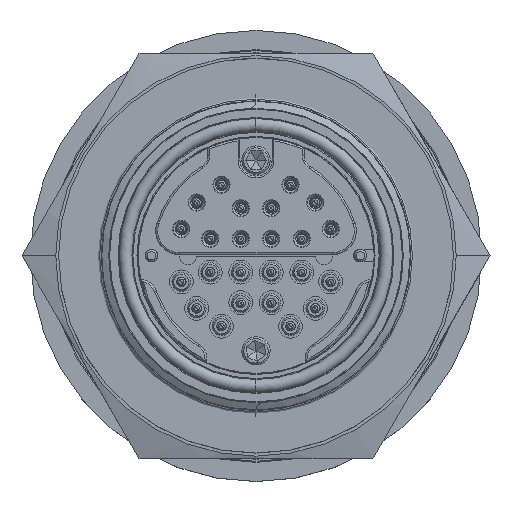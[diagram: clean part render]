
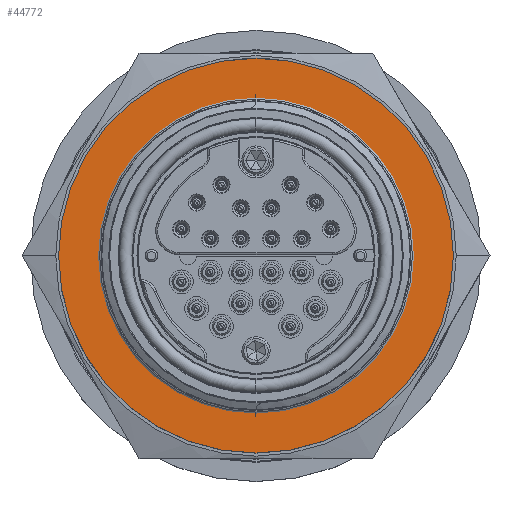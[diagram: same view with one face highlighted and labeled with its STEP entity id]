
A CAD part, top view. The second image highlights one B-rep face of the part: STEP entity #44772.
In plain terms, the highlighted planar face has unit normal (0, 0, 1).
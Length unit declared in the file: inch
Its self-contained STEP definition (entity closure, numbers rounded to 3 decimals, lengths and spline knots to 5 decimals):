
#212 = EDGE_LOOP ( 'NONE', ( #51464, #44786 ) ) ;
#437 = AXIS2_PLACEMENT_3D ( 'NONE', #38268, #51638, #33501 ) ;
#4363 = AXIS2_PLACEMENT_3D ( 'NONE', #48797, #49067, #10441 ) ;
#9367 = ORIENTED_EDGE ( 'NONE', *, *, #48985, .T. ) ;
#10441 = DIRECTION ( 'NONE',  ( 0., 1., 0. ) ) ;
#11685 = CARTESIAN_POINT ( 'NONE',  ( 0., -0.82, -0.506 ) ) ;
#12342 = ORIENTED_EDGE ( 'NONE', *, *, #31487, .T. ) ;
#12883 = DIRECTION ( 'NONE',  ( 0., 0., -1. ) ) ;
#13151 = PLANE ( 'NONE',  #50876 ) ;
#13559 = AXIS2_PLACEMENT_3D ( 'NONE', #44884, #44330, #19132 ) ;
#13596 = CARTESIAN_POINT ( 'NONE',  ( 0., 1.035, -0.506 ) ) ;
#17627 = FACE_OUTER_BOUND ( 'NONE', #18124, .T. ) ;
#18124 = EDGE_LOOP ( 'NONE', ( #9367, #12342 ) ) ;
#19132 = DIRECTION ( 'NONE',  ( 0., 1., 0. ) ) ;
#21635 = CIRCLE ( 'NONE', #13559, 0.82 ) ;
#23108 = CARTESIAN_POINT ( 'NONE',  ( 0., 0., -0.506 ) ) ;
#25262 = VERTEX_POINT ( 'NONE', #28555 ) ;
#26709 = CARTESIAN_POINT ( 'NONE',  ( 0., -1.035, -0.506 ) ) ;
#27579 = DIRECTION ( 'NONE',  ( 0., 1., 0. ) ) ;
#28555 = CARTESIAN_POINT ( 'NONE',  ( 0., 0.82, -0.506 ) ) ;
#30220 = CARTESIAN_POINT ( 'NONE',  ( -1.035, 0., -0.506 ) ) ;
#30265 = CIRCLE ( 'NONE', #4363, 0.82 ) ;
#31487 = EDGE_CURVE ( 'NONE', #33681, #38863, #51063, .T. ) ;
#31958 = EDGE_CURVE ( 'NONE', #25262, #36852, #21635, .T. ) ;
#33501 = DIRECTION ( 'NONE',  ( 0., 1., 0. ) ) ;
#33681 = VERTEX_POINT ( 'NONE', #26709 ) ;
#36852 = VERTEX_POINT ( 'NONE', #11685 ) ;
#38268 = CARTESIAN_POINT ( 'NONE',  ( 0., 0., -0.506 ) ) ;
#38863 = VERTEX_POINT ( 'NONE', #13596 ) ;
#42027 = DIRECTION ( 'NONE',  ( 0., -1., 0. ) ) ;
#44330 = DIRECTION ( 'NONE',  ( 0., 0., 1. ) ) ;
#44367 = EDGE_CURVE ( 'NONE', #36852, #25262, #30265, .T. ) ;
#44772 = ADVANCED_FACE ( 'NONE', ( #51207, #17627 ), #13151, .F. ) ;
#44786 = ORIENTED_EDGE ( 'NONE', *, *, #44367, .F. ) ;
#44884 = CARTESIAN_POINT ( 'NONE',  ( 0., 0., -0.506 ) ) ;
#48797 = CARTESIAN_POINT ( 'NONE',  ( 0., 0., -0.506 ) ) ;
#48860 = DIRECTION ( 'NONE',  ( 0., 0., 1. ) ) ;
#48985 = EDGE_CURVE ( 'NONE', #38863, #33681, #50453, .T. ) ;
#49067 = DIRECTION ( 'NONE',  ( 0., 0., 1. ) ) ;
#50453 = CIRCLE ( 'NONE', #437, 1.035 ) ;
#50876 = AXIS2_PLACEMENT_3D ( 'NONE', #30220, #12883, #42027 ) ;
#51063 = CIRCLE ( 'NONE', #54600, 1.035 ) ;
#51207 = FACE_BOUND ( 'NONE', #212, .T. ) ;
#51464 = ORIENTED_EDGE ( 'NONE', *, *, #31958, .F. ) ;
#51638 = DIRECTION ( 'NONE',  ( 0., 0., 1. ) ) ;
#54600 = AXIS2_PLACEMENT_3D ( 'NONE', #23108, #48860, #27579 ) ;
